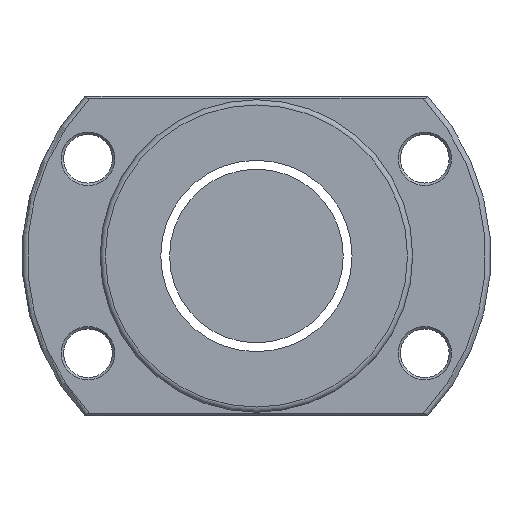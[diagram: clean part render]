
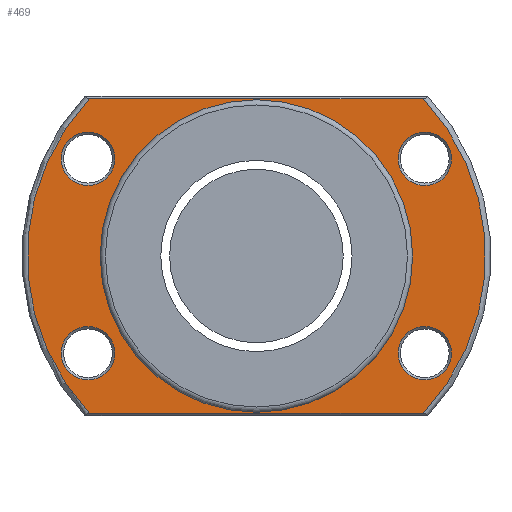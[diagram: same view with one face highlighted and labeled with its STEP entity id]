
A CAD part, left-side view. The second image highlights one B-rep face of the part: STEP entity #469.
In plain terms, the highlighted planar face has unit normal (-1, 0, 0).
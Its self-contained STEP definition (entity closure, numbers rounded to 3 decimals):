
#14 = CARTESIAN_POINT ( 'NONE',  ( -95.5, 48.497, 28. ) ) ;
#24 = CARTESIAN_POINT ( 'NONE',  ( -95.5, 0., 0. ) ) ;
#67 = CIRCLE ( 'NONE', #794, 7.7 ) ;
#83 = EDGE_CURVE ( 'NONE', #1586, #907, #2831, .T. ) ;
#97 = DIRECTION ( 'NONE',  ( 0., 0., 1. ) ) ;
#182 = EDGE_LOOP ( 'NONE', ( #419 ) ) ;
#250 = PLANE ( 'NONE',  #912 ) ;
#297 = DIRECTION ( 'NONE',  ( 0., 0., -1. ) ) ;
#307 = DIRECTION ( 'NONE',  ( 0., 0., 1. ) ) ;
#325 = DIRECTION ( 'NONE',  ( 0., 0., 1. ) ) ;
#357 = CARTESIAN_POINT ( 'NONE',  ( -95.5, -48.497, 28. ) ) ;
#387 = CIRCLE ( 'NONE', #809, 7.7 ) ;
#411 = EDGE_CURVE ( 'NONE', #2345, #2345, #387, .T. ) ;
#419 = ORIENTED_EDGE ( 'NONE', *, *, #411, .T. ) ;
#469 = ADVANCED_FACE ( 'NONE', ( #1368, #1382, #2295, #2999, #1596, #647 ), #250, .T. ) ;
#486 = CARTESIAN_POINT ( 'NONE',  ( -95.5, -47.999, 45.3 ) ) ;
#530 = EDGE_CURVE ( 'NONE', #1054, #1054, #2061, .T. ) ;
#537 = ORIENTED_EDGE ( 'NONE', *, *, #1367, .T. ) ;
#588 = DIRECTION ( 'NONE',  ( 0., 0., 1. ) ) ;
#633 = DIRECTION ( 'NONE',  ( -1., 0., 0. ) ) ;
#634 = EDGE_CURVE ( 'NONE', #1740, #1740, #67, .T. ) ;
#637 = ORIENTED_EDGE ( 'NONE', *, *, #1801, .T. ) ;
#647 = FACE_OUTER_BOUND ( 'NONE', #1080, .T. ) ;
#686 = DIRECTION ( 'NONE',  ( 0., 1., 0. ) ) ;
#704 = DIRECTION ( 'NONE',  ( 0., 0., 1. ) ) ;
#762 = CARTESIAN_POINT ( 'NONE',  ( -95.5, 48.497, -28. ) ) ;
#794 = AXIS2_PLACEMENT_3D ( 'NONE', #1700, #2187, #97 ) ;
#809 = AXIS2_PLACEMENT_3D ( 'NONE', #357, #1060, #1983 ) ;
#907 = VERTEX_POINT ( 'NONE', #1062 ) ;
#912 = AXIS2_PLACEMENT_3D ( 'NONE', #2309, #939, #704 ) ;
#939 = DIRECTION ( 'NONE',  ( -1., 0., 0. ) ) ;
#944 = DIRECTION ( 'NONE',  ( 0., 0., 1. ) ) ;
#945 = AXIS2_PLACEMENT_3D ( 'NONE', #24, #2351, #297 ) ;
#984 = VERTEX_POINT ( 'NONE', #2067 ) ;
#996 = CARTESIAN_POINT ( 'NONE',  ( -95.5, -48.497, -20.3 ) ) ;
#1045 = ORIENTED_EDGE ( 'NONE', *, *, #530, .T. ) ;
#1050 = CIRCLE ( 'NONE', #2802, 66. ) ;
#1054 = VERTEX_POINT ( 'NONE', #2418 ) ;
#1060 = DIRECTION ( 'NONE',  ( 1., 0., 0. ) ) ;
#1062 = CARTESIAN_POINT ( 'NONE',  ( -95.5, -47.999, -45.3 ) ) ;
#1080 = EDGE_LOOP ( 'NONE', ( #2609, #637, #2293, #2767 ) ) ;
#1129 = ORIENTED_EDGE ( 'NONE', *, *, #2346, .T. ) ;
#1195 = CARTESIAN_POINT ( 'NONE',  ( -95.5, -48.497, 35.7 ) ) ;
#1200 = CIRCLE ( 'NONE', #1686, 7.7 ) ;
#1203 = DIRECTION ( 'NONE',  ( 0., -1., 0. ) ) ;
#1245 = VECTOR ( 'NONE', #686, 1000. ) ;
#1256 = CARTESIAN_POINT ( 'NONE',  ( -95.5, 0., 0. ) ) ;
#1261 = CARTESIAN_POINT ( 'NONE',  ( -95.5, 67.5, -45.3 ) ) ;
#1270 = CIRCLE ( 'NONE', #1753, 66. ) ;
#1335 = CIRCLE ( 'NONE', #1414, 7.7 ) ;
#1367 = EDGE_CURVE ( 'NONE', #1963, #1963, #1335, .T. ) ;
#1368 = FACE_BOUND ( 'NONE', #1503, .T. ) ;
#1382 = FACE_BOUND ( 'NONE', #2721, .T. ) ;
#1414 = AXIS2_PLACEMENT_3D ( 'NONE', #762, #2198, #307 ) ;
#1417 = DIRECTION ( 'NONE',  ( 1., 0., 0. ) ) ;
#1500 = DIRECTION ( 'NONE',  ( -1., 0., 0. ) ) ;
#1503 = EDGE_LOOP ( 'NONE', ( #537 ) ) ;
#1586 = VERTEX_POINT ( 'NONE', #1735 ) ;
#1596 = FACE_BOUND ( 'NONE', #2638, .T. ) ;
#1686 = AXIS2_PLACEMENT_3D ( 'NONE', #14, #1417, #944 ) ;
#1700 = CARTESIAN_POINT ( 'NONE',  ( -95.5, -48.497, -28. ) ) ;
#1735 = CARTESIAN_POINT ( 'NONE',  ( -95.5, 47.999, -45.3 ) ) ;
#1740 = VERTEX_POINT ( 'NONE', #996 ) ;
#1753 = AXIS2_PLACEMENT_3D ( 'NONE', #1256, #1500, #325 ) ;
#1792 = CARTESIAN_POINT ( 'NONE',  ( -95.5, 0., 0. ) ) ;
#1801 = EDGE_CURVE ( 'NONE', #984, #1586, #1270, .T. ) ;
#1815 = ORIENTED_EDGE ( 'NONE', *, *, #634, .T. ) ;
#1963 = VERTEX_POINT ( 'NONE', #2867 ) ;
#1983 = DIRECTION ( 'NONE',  ( 0., 0., 1. ) ) ;
#2061 = CIRCLE ( 'NONE', #945, 45. ) ;
#2067 = CARTESIAN_POINT ( 'NONE',  ( -95.5, 47.999, 45.3 ) ) ;
#2115 = VECTOR ( 'NONE', #1203, 1000. ) ;
#2135 = LINE ( 'NONE', #2330, #1245 ) ;
#2187 = DIRECTION ( 'NONE',  ( 1., 0., 0. ) ) ;
#2198 = DIRECTION ( 'NONE',  ( 1., 0., 0. ) ) ;
#2293 = ORIENTED_EDGE ( 'NONE', *, *, #83, .T. ) ;
#2295 = FACE_BOUND ( 'NONE', #182, .T. ) ;
#2309 = CARTESIAN_POINT ( 'NONE',  ( -95.5, 67.5, 0. ) ) ;
#2330 = CARTESIAN_POINT ( 'NONE',  ( -95.5, 67.5, 45.3 ) ) ;
#2345 = VERTEX_POINT ( 'NONE', #1195 ) ;
#2346 = EDGE_CURVE ( 'NONE', #2390, #2390, #1200, .T. ) ;
#2351 = DIRECTION ( 'NONE',  ( 1., 0., 0. ) ) ;
#2390 = VERTEX_POINT ( 'NONE', #2679 ) ;
#2418 = CARTESIAN_POINT ( 'NONE',  ( -95.5, 0., -45. ) ) ;
#2609 = ORIENTED_EDGE ( 'NONE', *, *, #2975, .T. ) ;
#2638 = EDGE_LOOP ( 'NONE', ( #1045 ) ) ;
#2679 = CARTESIAN_POINT ( 'NONE',  ( -95.5, 48.497, 35.7 ) ) ;
#2700 = EDGE_CURVE ( 'NONE', #907, #2906, #1050, .T. ) ;
#2721 = EDGE_LOOP ( 'NONE', ( #1815 ) ) ;
#2767 = ORIENTED_EDGE ( 'NONE', *, *, #2700, .T. ) ;
#2802 = AXIS2_PLACEMENT_3D ( 'NONE', #1792, #633, #588 ) ;
#2811 = EDGE_LOOP ( 'NONE', ( #1129 ) ) ;
#2831 = LINE ( 'NONE', #1261, #2115 ) ;
#2867 = CARTESIAN_POINT ( 'NONE',  ( -95.5, 48.497, -20.3 ) ) ;
#2906 = VERTEX_POINT ( 'NONE', #486 ) ;
#2975 = EDGE_CURVE ( 'NONE', #2906, #984, #2135, .T. ) ;
#2999 = FACE_BOUND ( 'NONE', #2811, .T. ) ;
